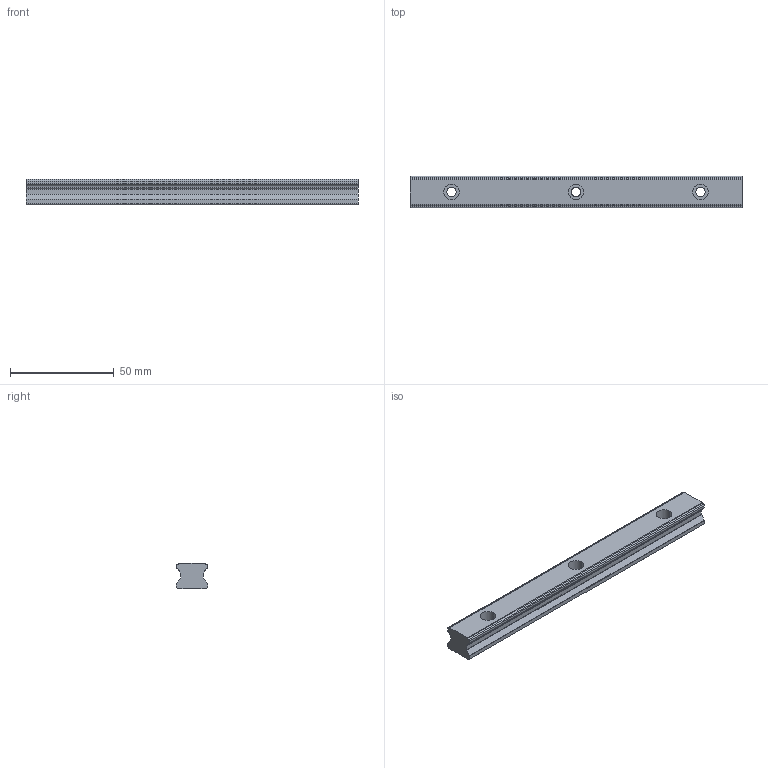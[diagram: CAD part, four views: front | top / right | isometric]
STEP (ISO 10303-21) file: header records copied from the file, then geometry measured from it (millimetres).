
FILE_DESCRIPTION(('starvars output'),'2;1');
FILE_NAME('cv20190626225923000044105.stp','22:59:24 2019/06/26',( 'Thomas Industrial Network Germany GmbH'),( 'Thomas Industrial Network Germany GmbH'),'unknown preprocess','ACIS' ,'unknown authorization');
FILE_SCHEMA(('CONFIG_CONTROL_DESIGN {UNKNOWN IMPLEMENTATION LEVEL}'));
Length unit declared in the file: millimetre
Products named in the file (1): PRODUCT_ID_2
Bounding box: 160 x 15 x 12.5 mm (x, y, z)
Volume: 25201.2 mm3; surface area: 9910.5 mm2
Topology: 1 solids, 1 shells, 58 faces, 168 edges, 112 vertices
Faces by surface type: cylinder 32, plane 26
Entity records: 1886 total; most frequent: ORIENTED_EDGE 336, CARTESIAN_POINT 305, DIRECTION 300, EDGE_CURVE 168, VERTEX_POINT 112, AXIS2_PLACEMENT_3D 107, VECTOR 86, LINE 86
